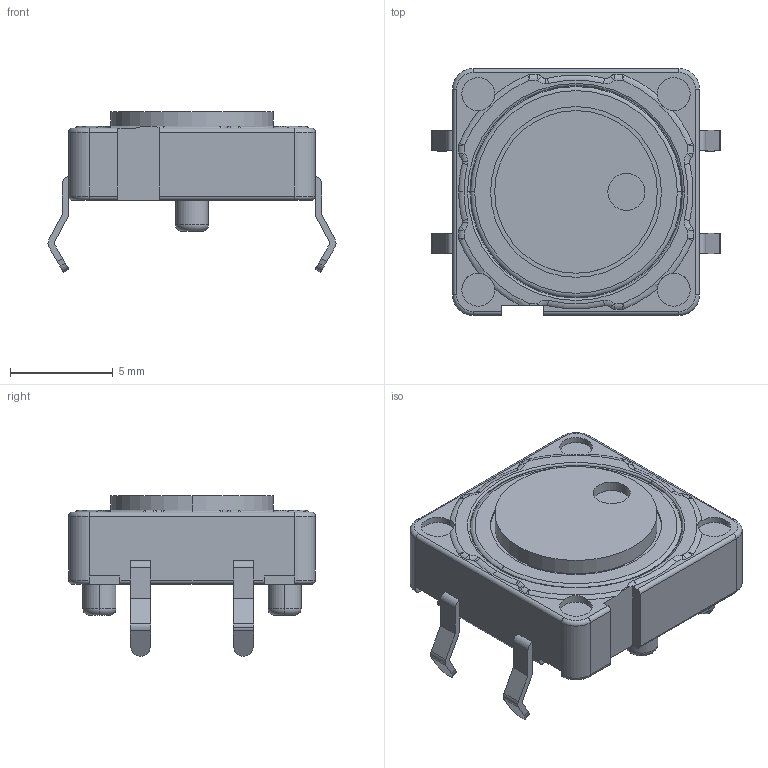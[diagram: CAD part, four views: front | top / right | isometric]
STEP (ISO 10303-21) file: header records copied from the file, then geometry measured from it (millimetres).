
FILE_DESCRIPTION (( 'STEP AP214' ), '1' );
FILE_NAME ('SKHCBF.STEP', '2013-01-22T02:19:32', ( 'Suzuki Kiyoshi' ), ( 'ａｌｐｓ' ), 'SwSTEP 2.0', 'SolidWorks 2010', '' );
FILE_SCHEMA (( 'AUTOMOTIVE_DESIGN' ));
Length unit declared in the file: millimetre
Products named in the file (1): SKHCBF
Bounding box: 14 x 12 x 7.8 mm (x, y, z)
Volume: 544.9 mm3; surface area: 540.4 mm2
Topology: 1 solids, 1 shells, 198 faces, 540 edges, 351 vertices
Faces by surface type: plane 78, cylinder 68, torus 52
Entity records: 8697 total; most frequent: CARTESIAN_POINT 1255, DIRECTION 1187, ORIENTED_EDGE 1080, EDGE_CURVE 540, AXIS2_PLACEMENT_3D 465, VERTEX_POINT 351, CIRCLE 266, VECTOR 257
